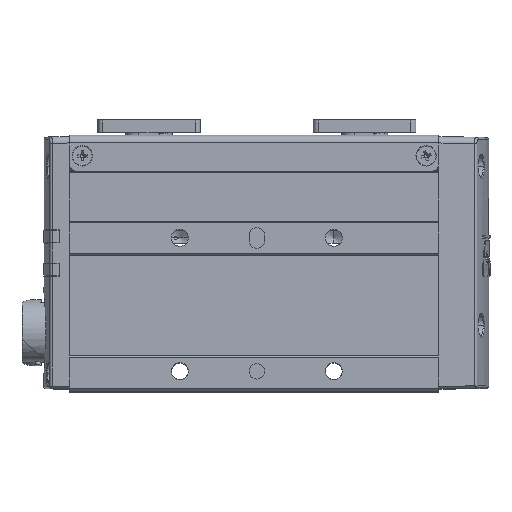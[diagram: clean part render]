
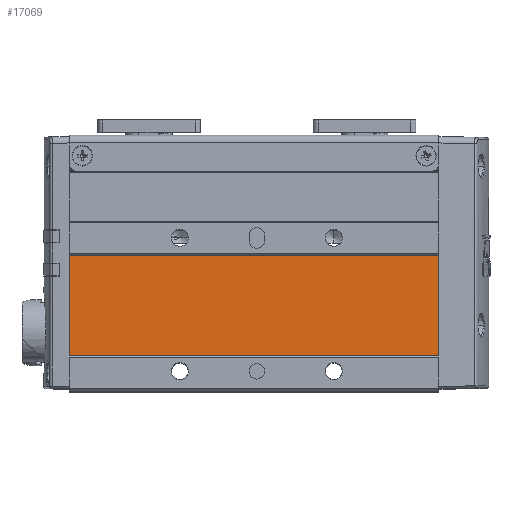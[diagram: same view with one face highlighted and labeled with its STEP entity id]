
A CAD part, top view. The second image highlights one B-rep face of the part: STEP entity #17069.
In plain terms, the highlighted planar face has unit normal (0, 0, 1).
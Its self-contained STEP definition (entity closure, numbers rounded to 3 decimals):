
#105 = CARTESIAN_POINT ( 'NONE',  ( 0., 32.5, 15.2 ) ) ;
#1268 = LINE ( 'NONE', #22377, #42789 ) ;
#3357 = AXIS2_PLACEMENT_3D ( 'NONE', #34787, #38531, #30778 ) ;
#4607 = CARTESIAN_POINT ( 'NONE',  ( 72., 6.997, 15.2 ) ) ;
#4899 = VERTEX_POINT ( 'NONE', #31324 ) ;
#5710 = EDGE_LOOP ( 'NONE', ( #44309, #21272, #52356, #52420 ) ) ;
#6645 = VERTEX_POINT ( 'NONE', #4607 ) ;
#8991 = VERTEX_POINT ( 'NONE', #11637 ) ;
#11637 = CARTESIAN_POINT ( 'NONE',  ( 0., 26.65, 15.2 ) ) ;
#12160 = LINE ( 'NONE', #105, #45824 ) ;
#12911 = EDGE_CURVE ( 'NONE', #8991, #4899, #12160, .T. ) ;
#17069 = ADVANCED_FACE ( 'NONE', ( #22182 ), #22444, .F. ) ;
#18079 = CARTESIAN_POINT ( 'NONE',  ( 72., 6.997, 15.2 ) ) ;
#18365 = DIRECTION ( 'NONE',  ( 1., 0., 0. ) ) ;
#21272 = ORIENTED_EDGE ( 'NONE', *, *, #42658, .F. ) ;
#21989 = DIRECTION ( 'NONE',  ( 0., -1., 0. ) ) ;
#22182 = FACE_OUTER_BOUND ( 'NONE', #5710, .T. ) ;
#22377 = CARTESIAN_POINT ( 'NONE',  ( 72., 26.65, 15.2 ) ) ;
#22444 = PLANE ( 'NONE',  #3357 ) ;
#22625 = DIRECTION ( 'NONE',  ( -1., 0., 0. ) ) ;
#24733 = EDGE_CURVE ( 'NONE', #51405, #6645, #49303, .T. ) ;
#30778 = DIRECTION ( 'NONE',  ( 0., 1., 0. ) ) ;
#31324 = CARTESIAN_POINT ( 'NONE',  ( 0., 6.997, 15.2 ) ) ;
#32324 = CARTESIAN_POINT ( 'NONE',  ( 72., 26.65, 15.2 ) ) ;
#32495 = DIRECTION ( 'NONE',  ( 0., -1., 0. ) ) ;
#33958 = EDGE_CURVE ( 'NONE', #6645, #4899, #42989, .T. ) ;
#34787 = CARTESIAN_POINT ( 'NONE',  ( 72., 26.65, 15.2 ) ) ;
#38531 = DIRECTION ( 'NONE',  ( 0., 0., -1. ) ) ;
#39054 = VECTOR ( 'NONE', #22625, 1000. ) ;
#39473 = VECTOR ( 'NONE', #21989, 1000. ) ;
#42658 = EDGE_CURVE ( 'NONE', #8991, #51405, #1268, .T. ) ;
#42789 = VECTOR ( 'NONE', #18365, 1000. ) ;
#42989 = LINE ( 'NONE', #18079, #39054 ) ;
#44309 = ORIENTED_EDGE ( 'NONE', *, *, #24733, .F. ) ;
#45824 = VECTOR ( 'NONE', #32495, 1000. ) ;
#49303 = LINE ( 'NONE', #50624, #39473 ) ;
#50624 = CARTESIAN_POINT ( 'NONE',  ( 72., 26.65, 15.2 ) ) ;
#51405 = VERTEX_POINT ( 'NONE', #32324 ) ;
#52356 = ORIENTED_EDGE ( 'NONE', *, *, #12911, .T. ) ;
#52420 = ORIENTED_EDGE ( 'NONE', *, *, #33958, .F. ) ;
